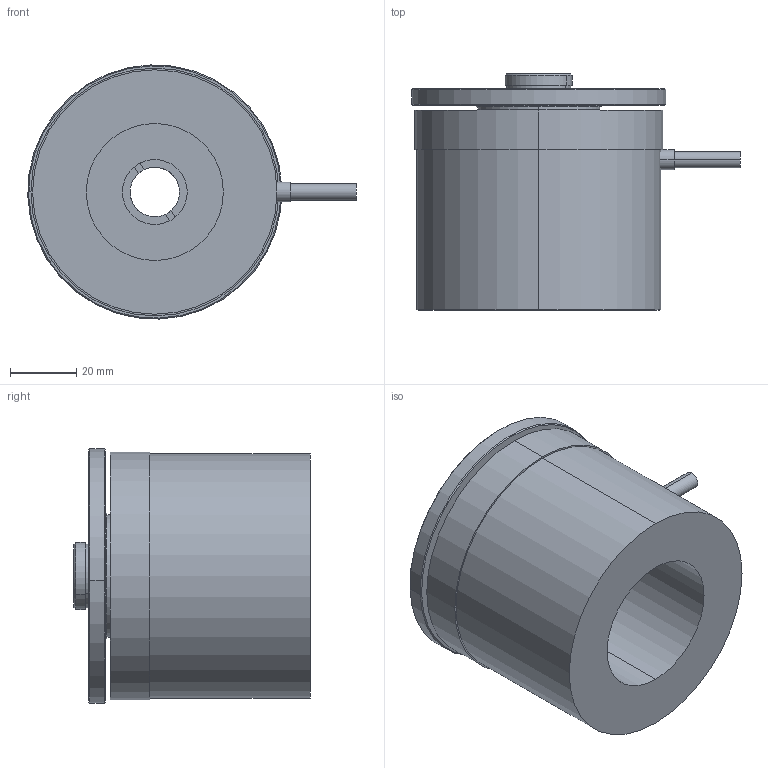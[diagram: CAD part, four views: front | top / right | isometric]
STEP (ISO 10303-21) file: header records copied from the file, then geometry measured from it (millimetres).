
FILE_DESCRIPTION (( 'STEP AP203' ), '1' );
FILE_NAME ('P76.Z200带转接件（上RMS下RMS螺纹）三维图2024.08.12.STEP', '2024-08-12T02:46:48', ( '微软用户' ), ( '微软中国' ), 'SwSTEP 2.0', 'SolidWorks 2016', '' );
FILE_SCHEMA (( 'CONFIG_CONTROL_DESIGN' ));
Length unit declared in the file: millimetre
Products named in the file (4): P76俋窒蹟恇蛌諉A_(N)W0.8*1-36"-(D)15; P76标准尺寸三维图_P76.Z200-W0.8*1-36"; P76俋窒蹟恇蛌諉B_P76.Z200; P76.Z200带转接件（上RMS下RMS螺纹）三维图2024.08.12
Assembly tree (3 placements, depth 2):
  P76.Z200带转接件（上RMS下RMS螺纹）三维图2024.08.12
    P76标准尺寸三维图_P76.Z200-W0.8*1-36"
    P76俋窒蹟恇蛌諉A_(N)W0.8*1-36"-(D)15
    P76俋窒蹟恇蛌諉B_P76.Z200
Bounding box: 99.48 x 71.5 x 76.95 mm (x, y, z)
Volume: 210947.4 mm3; surface area: 44372.1 mm2
Topology: 4 solids, 4 shells, 75 faces, 163 edges, 106 vertices
Faces by surface type: cylinder 39, plane 28, cone 8
Entity records: 2511 total; most frequent: DIRECTION 419, CARTESIAN_POINT 350, ORIENTED_EDGE 326, AXIS2_PLACEMENT_3D 175, EDGE_CURVE 163, VERTEX_POINT 106, CIRCLE 94, EDGE_LOOP 91
